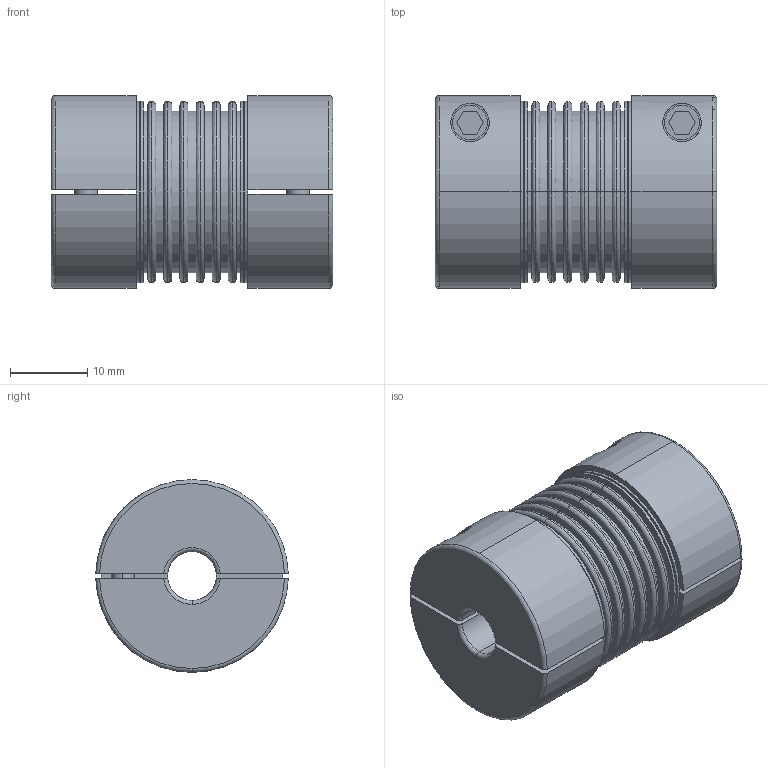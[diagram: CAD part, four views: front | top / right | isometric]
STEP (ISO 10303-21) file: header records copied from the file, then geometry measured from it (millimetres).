
FILE_DESCRIPTION (( 'STEP AP203' ), '1' );
FILE_NAME ('GMT-FACB25.STEP', '2008-04-17T02:56:44', ( 'user' ), ( '' ), 'SwSTEP 2.0', 'SolidWorks 2007', '' );
FILE_SCHEMA (( 'CONFIG_CONTROL_DESIGN' ));
Length unit declared in the file: millimetre
Products named in the file (1): GMT-FACB25
Bounding box: 36.5 x 24.99 x 25 mm (x, y, z)
Volume: 13999.2 mm3; surface area: 6812.2 mm2
Topology: 1 solids, 1 shells, 155 faces, 353 edges, 227 vertices
Faces by surface type: plane 61, cylinder 58, bspline 24, torus 12
Entity records: 4997 total; most frequent: CARTESIAN_POINT 1462, DIRECTION 742, ORIENTED_EDGE 706, EDGE_CURVE 353, AXIS2_PLACEMENT_3D 307, VERTEX_POINT 227, EDGE_LOOP 188, CIRCLE 175
